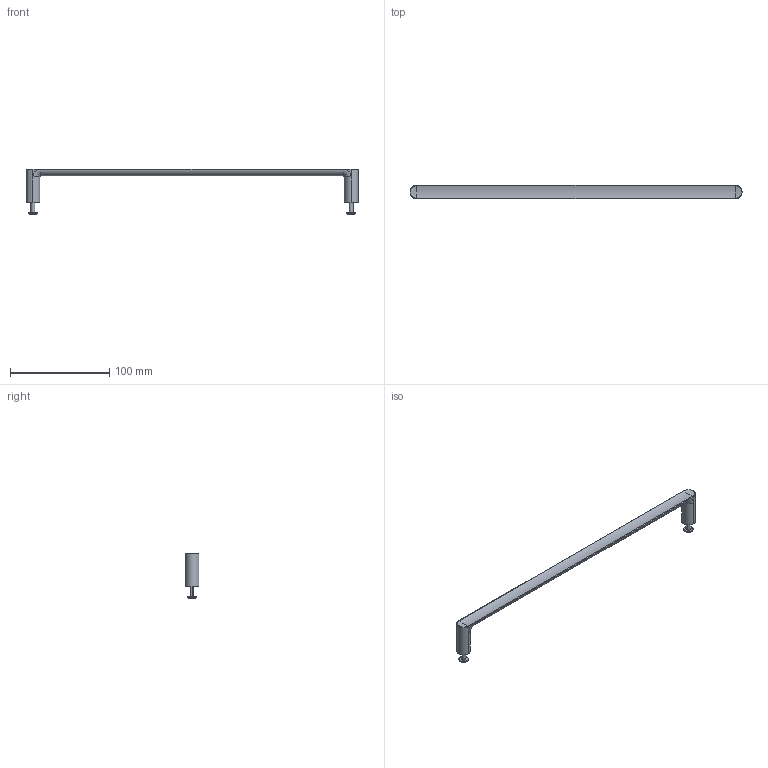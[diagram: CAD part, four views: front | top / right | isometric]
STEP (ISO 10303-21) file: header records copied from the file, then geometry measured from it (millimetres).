
FILE_DESCRIPTION((''),'2;1');
FILE_NAME('48752--00_SUB01_ASM','2024-10-25T11:11:04',('clra1'),(''),'CREO PARAMETRIC BY PTC INC, 2022244','CREO PARAMETRIC BY PTC INC, 2022244','');
FILE_SCHEMA(('CONFIG_CONTROL_DESIGN'));
Length unit declared in the file: millimetre
Products named in the file (3): 46756--; 4674900; 48752--00_SUB01_ASM
Assembly tree (3 placements, depth 2):
  48752--00_SUB01_ASM
    46756--
    4674900  x2
Bounding box: 334 x 14 x 46.06 mm (x, y, z)
Volume: 31804.8 mm3; surface area: 15834 mm2
Topology: 3 solids, 3 shells, 108 faces, 272 edges, 168 vertices
Faces by surface type: cylinder 44, cone 28, plane 14, torus 12, bspline 8, sphere 2
Entity records: 2501 total; most frequent: CARTESIAN_POINT 842, DIRECTION 334, ORIENTED_EDGE 330, EDGE_CURVE 165, AXIS2_PLACEMENT_3D 143, VERTEX_POINT 104, EDGE_LOOP 75, CIRCLE 71
